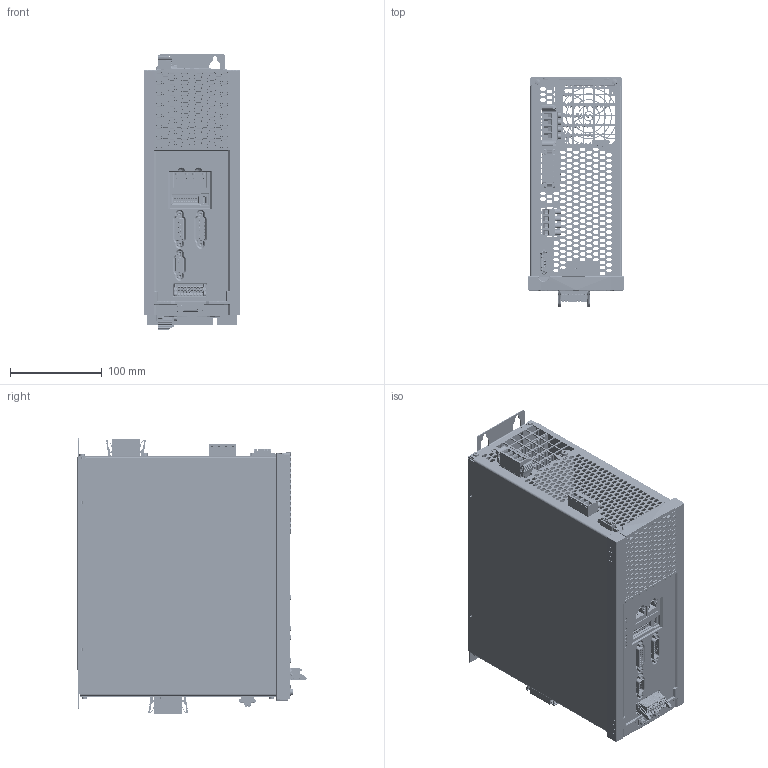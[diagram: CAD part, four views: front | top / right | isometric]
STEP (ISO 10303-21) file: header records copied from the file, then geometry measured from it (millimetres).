
FILE_DESCRIPTION(/* description */ (''),/* implementation_level */ '2;1');
FILE_NAME(/* name */ 'MD102201.1.0_esportazione_step.stp',/* time_stamp */ '2022-12-12T13:37:21+01:00',/* author */ (''),/* organization */ (''),/* preprocessor_version */ 'ST-DEVELOPER v16.7',/* originating_system */ 'SIEMENS PLM Software NX 1880',/* authorisation */ '');
FILE_SCHEMA (('AUTOMOTIVE_DESIGN { 1 0 10303 214 3 1 1 1 }'));
Products named in the file (1): lgag308C7ACErt4m
Bounding box: 105.33 x 249.8 x 300.6 mm (x, y, z)
Volume: 837522.3 mm3; surface area: 767019 mm2
Topology: 115 solids, 132 shells, 19708 faces, 53243 edges, 34452 vertices
Faces by surface type: plane 13569, cylinder 4283, cone 698, bspline 473, torus 432, sphere 251, extrusion 2
Full cylindrical faces by diameter (mm): 0.2 x18, 0.3 x4, 0.5 x5, 0.6 x2, 1 x47, 1.2 x16, 1.5 x39, 1.6 x15, 1.632 x2, 2 x3, 2.2 x2, 2.25 x2, 2.499 x2, 2.5 x3, 2.6 x7, 2.75 x16, 2.8 x2, 3 x59, 3.2 x23, 3.3 x13, 3.5 x10, 4 x3, 4.3 x3, 5 x1, 7 x7, 9 x4
Entity records: 707568 total; most frequent: CARTESIAN_POINT 151946, ORIENTED_EDGE 104690, DIRECTION 100794, EDGE_CURVE 52345, VECTOR 37416, LINE 37414, VERTEX_POINT 34135, AXIS2_PLACEMENT_3D 31689
